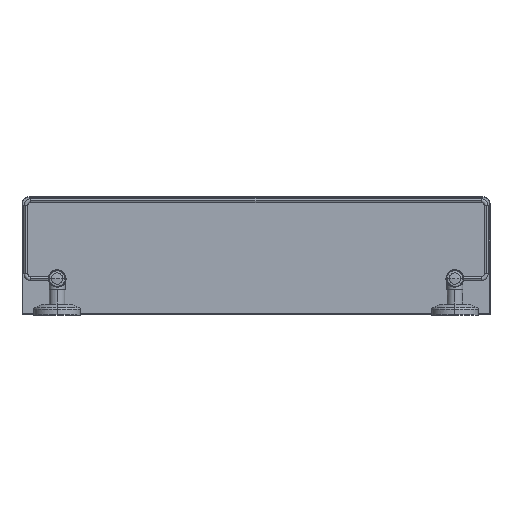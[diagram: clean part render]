
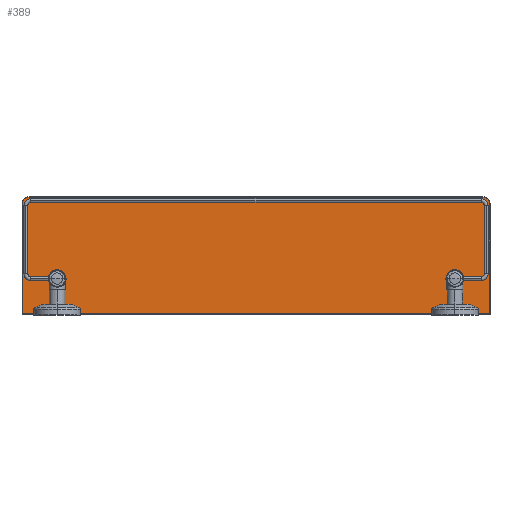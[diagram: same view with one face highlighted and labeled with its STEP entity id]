
A CAD part, top view. The second image highlights one B-rep face of the part: STEP entity #389.
In plain terms, the highlighted planar face has unit normal (0, 0, 1).
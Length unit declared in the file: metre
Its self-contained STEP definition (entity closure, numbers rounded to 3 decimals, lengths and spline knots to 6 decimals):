
#32=VERTEX_POINT('',#33);
#33=CARTESIAN_POINT('',(0.006,0.0329,-0.0631));
#39=EDGE_CURVE('',#40,#32,#42,.T.);
#40=VERTEX_POINT('',#41);
#41=CARTESIAN_POINT('',(-0.006,0.0329,-0.0631));
#42=CIRCLE('',#43,0.006);
#43=AXIS2_PLACEMENT_3D('',#44,#45,#46);
#44=CARTESIAN_POINT('',(0.,0.0329,-0.0631));
#45=DIRECTION('',(0.0,0.0,-1.0));
#46=DIRECTION('',(-1.0,0.0,0.0));
#74=VERTEX_POINT('',#75);
#75=CARTESIAN_POINT('',(-0.504,0.0329,-0.0631));
#81=EDGE_CURVE('',#82,#74,#84,.T.);
#82=VERTEX_POINT('',#83);
#83=CARTESIAN_POINT('',(-0.516,0.0329,-0.0631));
#84=CIRCLE('',#85,0.006);
#85=AXIS2_PLACEMENT_3D('',#86,#87,#88);
#86=CARTESIAN_POINT('',(-0.51,0.0329,-0.0631));
#87=DIRECTION('',(0.0,0.0,-1.0));
#88=DIRECTION('',(-1.0,0.0,0.0));
#276=CARTESIAN_POINT('',(-0.504,0.0329,-0.0631));
#277=EDGE_CURVE('',#74,#82,#278,.T.);
#278=(B_SPLINE_CURVE(3,(#276,#279,#280,#281),.UNSPECIFIED.,.F.,.U.)B_SPLINE_CURVE_WITH_KNOTS(
  (4,4),(0.0,1.0),.UNSPECIFIED.)BOUNDED_CURVE()CURVE()GEOMETRIC_REPRESENTATION_ITEM(
  )RATIONAL_B_SPLINE_CURVE((1.0,0.333,0.333,1.0)
  )REPRESENTATION_ITEM(''));
#279=CARTESIAN_POINT('',(-0.504,0.0209,-0.0631));
#280=CARTESIAN_POINT('',(-0.516,0.0209,-0.0631));
#281=CARTESIAN_POINT('',(-0.516,0.0329,-0.0631));
#295=CARTESIAN_POINT('',(0.006,0.0329,-0.0631));
#296=EDGE_CURVE('',#32,#40,#297,.T.);
#297=(B_SPLINE_CURVE(3,(#295,#298,#299,#300),.UNSPECIFIED.,.F.,.U.)B_SPLINE_CURVE_WITH_KNOTS(
  (4,4),(0.0,1.0),.UNSPECIFIED.)BOUNDED_CURVE()CURVE()GEOMETRIC_REPRESENTATION_ITEM(
  )RATIONAL_B_SPLINE_CURVE((1.0,0.333,0.333,1.0)
  )REPRESENTATION_ITEM(''));
#298=CARTESIAN_POINT('',(0.006,0.0209,-0.0631));
#299=CARTESIAN_POINT('',(-0.006,0.0209,-0.0631));
#300=CARTESIAN_POINT('',(-0.006,0.0329,-0.0631));
#389=ADVANCED_FACE('',(#395,#447,#451),#390,.F.);
#390=PLANE('',#391);
#391=AXIS2_PLACEMENT_3D('',#392,#393,#394);
#392=CARTESIAN_POINT('',(-0.255,-0.0121,-0.0631));
#393=DIRECTION('',(0.0,0.0,-1.0));
#394=DIRECTION('',(0.0,-1.0,0.0));
#395=FACE_OUTER_BOUND('',#396,.T.);
#396=EDGE_LOOP('',(#397,#407,#415,#423,#432,#440));
#397=ORIENTED_EDGE('',*,*,#398,.T.);
#398=EDGE_CURVE('',#399,#401,#403,.T.);
#399=VERTEX_POINT('',#400);
#400=CARTESIAN_POINT('',(-0.5545,0.1289,-0.0631));
#401=VERTEX_POINT('',#402);
#402=CARTESIAN_POINT('',(-0.5545,-0.0116,-0.0631));
#403=LINE('',#404,#405);
#404=CARTESIAN_POINT('',(-0.5545,-0.0121,-0.0631));
#405=VECTOR('',#406,1.0);
#406=DIRECTION('',(0.0,-1.0,0.0));
#407=ORIENTED_EDGE('',*,*,#408,.T.);
#408=EDGE_CURVE('',#401,#409,#411,.T.);
#409=VERTEX_POINT('',#410);
#410=CARTESIAN_POINT('',(0.0445,-0.0116,-0.0631));
#411=LINE('',#412,#413);
#412=CARTESIAN_POINT('',(-0.255,-0.0116,-0.0631));
#413=VECTOR('',#414,1.0);
#414=DIRECTION('',(1.0,0.0,0.0));
#415=ORIENTED_EDGE('',*,*,#416,.T.);
#416=EDGE_CURVE('',#409,#417,#419,.T.);
#417=VERTEX_POINT('',#418);
#418=CARTESIAN_POINT('',(0.0445,0.1289,-0.0631));
#419=LINE('',#420,#421);
#420=CARTESIAN_POINT('',(0.0445,-0.0121,-0.0631));
#421=VECTOR('',#422,1.0);
#422=DIRECTION('',(0.0,1.0,0.0));
#423=ORIENTED_EDGE('',*,*,#424,.T.);
#424=EDGE_CURVE('',#417,#425,#427,.F.);
#425=VERTEX_POINT('',#426);
#426=CARTESIAN_POINT('',(0.036,0.1374,-0.0631));
#427=CIRCLE('',#428,0.0085);
#428=AXIS2_PLACEMENT_3D('',#429,#430,#431);
#429=CARTESIAN_POINT('',(0.036,0.1289,-0.0631));
#430=DIRECTION('',(0.0,0.0,-1.0));
#431=DIRECTION('',(-1.0,0.0,0.0));
#432=ORIENTED_EDGE('',*,*,#433,.T.);
#433=EDGE_CURVE('',#425,#434,#436,.T.);
#434=VERTEX_POINT('',#435);
#435=CARTESIAN_POINT('',(-0.546,0.1374,-0.0631));
#436=LINE('',#437,#438);
#437=CARTESIAN_POINT('',(-0.255,0.1374,-0.0631));
#438=VECTOR('',#439,1.0);
#439=DIRECTION('',(-1.0,0.0,0.0));
#440=ORIENTED_EDGE('',*,*,#441,.T.);
#441=EDGE_CURVE('',#434,#399,#442,.F.);
#442=CIRCLE('',#443,0.0085);
#443=AXIS2_PLACEMENT_3D('',#444,#445,#446);
#444=CARTESIAN_POINT('',(-0.546,0.1289,-0.0631));
#445=DIRECTION('',(0.0,0.0,-1.0));
#446=DIRECTION('',(-1.0,0.0,0.0));
#447=FACE_BOUND('',#448,.T.);
#448=EDGE_LOOP('',(#449,#450));
#449=ORIENTED_EDGE('',*,*,#39,.T.);
#450=ORIENTED_EDGE('',*,*,#296,.T.);
#451=FACE_BOUND('',#452,.T.);
#452=EDGE_LOOP('',(#453,#454));
#453=ORIENTED_EDGE('',*,*,#81,.T.);
#454=ORIENTED_EDGE('',*,*,#277,.T.);
